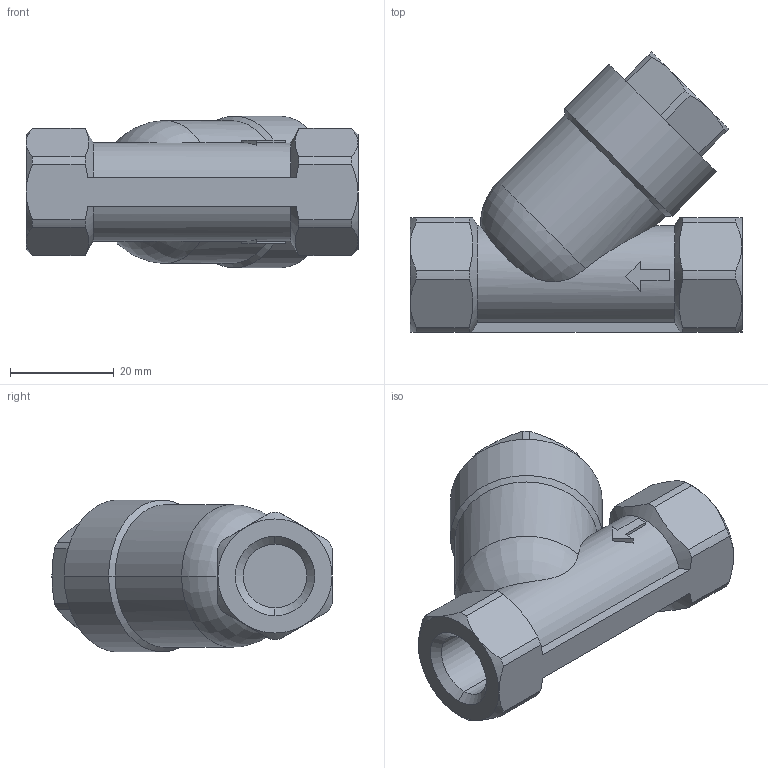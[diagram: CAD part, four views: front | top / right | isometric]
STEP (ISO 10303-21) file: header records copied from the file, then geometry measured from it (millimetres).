
FILE_DESCRIPTION (( 'STEP AP203' ), '1' );
FILE_NAME ('Y6.623007FNC.STEP', '2018-12-14T07:30:08', ( 'dell2' ), ( 'Microsoft' ), 'SwSTEP 2.0', 'SolidWorks 2017', '' );
FILE_SCHEMA (( 'CONFIG_CONTROL_DESIGN' ));
Length unit declared in the file: millimetre
Products named in the file (1): Y6.623007FNC
Bounding box: 64 x 54 x 29.3 mm (x, y, z)
Volume: 41023.7 mm3; surface area: 9947.3 mm2
Topology: 1 solids, 1 shells, 97 faces, 240 edges, 151 vertices
Faces by surface type: plane 41, cone 27, cylinder 27, torus 2
Entity records: 3314 total; most frequent: CARTESIAN_POINT 994, ORIENTED_EDGE 480, DIRECTION 457, EDGE_CURVE 240, AXIS2_PLACEMENT_3D 182, VERTEX_POINT 151, EDGE_LOOP 103, FACE_OUTER_BOUND 97
